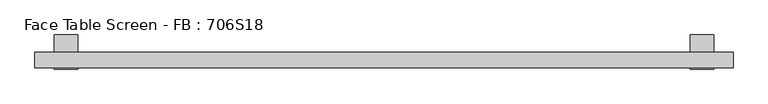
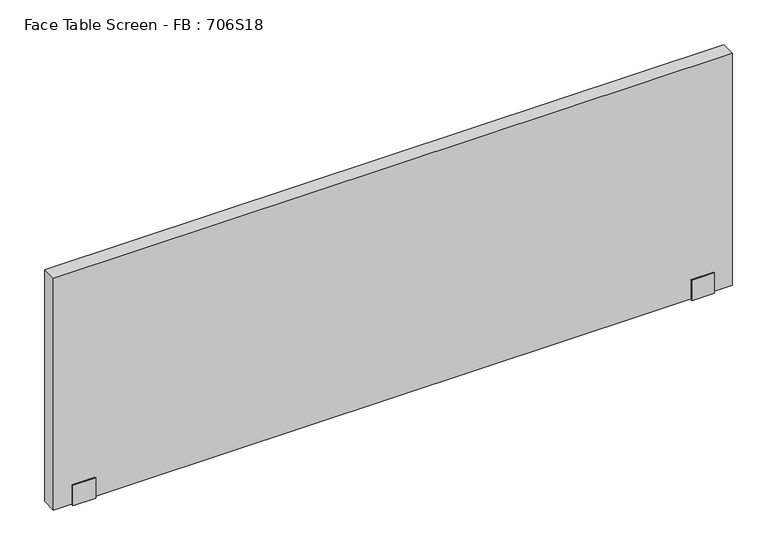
"""IFC4 building model written with IfcOpenShell, lengths in millimetres: furniture geometry, Face Table Screen - FB : 706S18."""

from ifc_helpers import new_model, si_unit, frame, origin, place, context, project, spatial, polyline, outline, extrude, source, transform, mapped, element, save


def face_table_screen_fb_706s18_1e987e3a(model_context):
    return source(origin(), model_context, "Body", "SweptSolid", [
        extrude(outline(polyline([(-42.9999947, -156.0), (-42.9999997, -99.0433898), (-40.0, -99.0433898), (-40.0, -153.0), (0.0, -153.0), (0.0, -22.0), (45.0, -22.0), (45.0, -25.0433898), (3.0000062, -25.0433898), (2.9999947, -156.0), (-42.9999947, -156.0)])), frame((809.9863751, 0.0, 0.0), z_axis=(1.0, 0.0, 0.0), x_axis=(0.0, 1.0, 0.0)), (0.0, 0.0, 1.0), 60.0),
        extrude(outline(polyline([(-42.9999947, -156.0), (-42.9999997, -99.0433898), (-40.0, -99.0433898), (-40.0, -153.0), (0.0, -153.0), (0.0, -22.0), (45.0, -22.0), (45.0, -25.0433898), (3.0000062, -25.0433898), (2.9999947, -156.0), (-42.9999947, -156.0)])), frame((-830.0136249, 0.0, 0.0), z_axis=(1.0, 0.0, 0.0), x_axis=(0.0, 1.0, 0.0)), (0.0, 0.0, 1.0), 60.0),
        extrude(outline(polyline([(919.9863751, -40.0), (-880.0136249, -40.0), (-880.0136249, 0.0), (919.9863751, 0.0), (919.9863751, -40.0)])), frame((0.0, 0.0, -153.0), z_axis=(0.0, 0.0, 1.0), x_axis=(1.0, 0.0, 0.0)), (0.0, 0.0, 1.0), 650.0),
    ])


if __name__ == "__main__":
    model = new_model("IFC4")
    model_context = context("Model", 3, world=origin())
    ifc_project = project(units=[si_unit("LENGTHUNIT", "METRE", prefix="MILLI")], contexts=[model_context])
    site = spatial("IfcSite", under=ifc_project)
    building = spatial("IfcBuilding", under=site)
    placement = place(None, origin())
    face_table_screen_fb_706s18_shape = face_table_screen_fb_706s18_1e987e3a(model_context)
    element("IfcFurniture", 1, ObjectType="Face Table Screen - FB : 706S18", at=placement, inside=building, context=model_context, shape_type="MappedRepresentation", body=[
        mapped(face_table_screen_fb_706s18_shape, transform((0.0, 0.0, 0.0), x_axis=(1.0, 0.0, 0.0), y_axis=(0.0, 1.0, 0.0), z_axis=(0.0, 0.0, 1.0))),
    ])
    save(model, "model.ifc")
